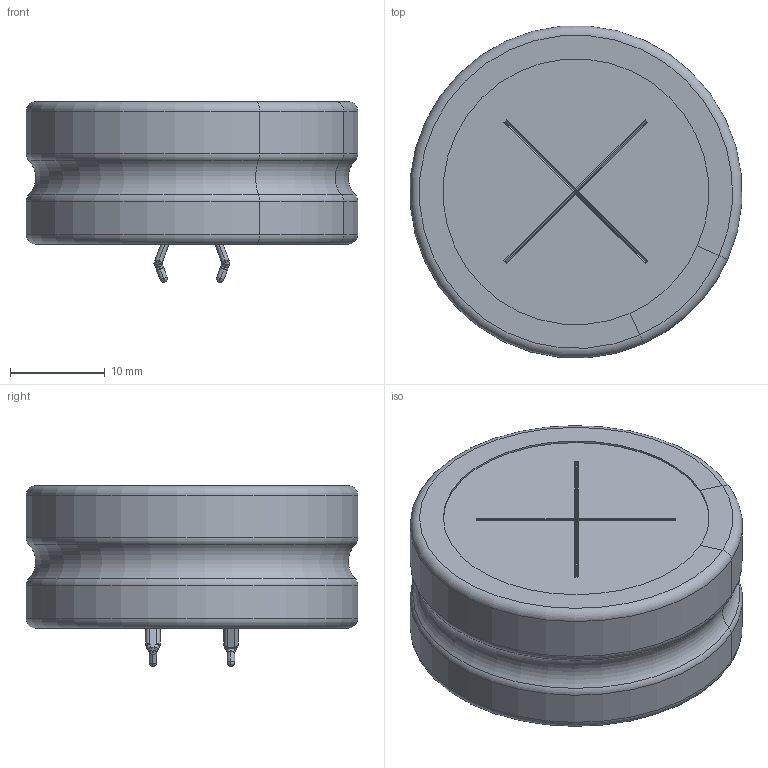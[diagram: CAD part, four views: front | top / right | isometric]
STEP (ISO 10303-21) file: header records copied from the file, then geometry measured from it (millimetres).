
FILE_DESCRIPTION(/* description */ (''),/* implementation_level */ '2;1');
FILE_NAME(/* name */ '35x15_Snap.stp',/* time_stamp */ '2017-09-02T14:56:56+09:00',/* author */ (''),/* organization */ (''),/* preprocessor_version */ 'ST-DEVELOPER v16',/* originating_system */ 'SIEMENS PLM Software NX 11.0',/* authorisation */ '');
FILE_SCHEMA (('AUTOMOTIVE_DESIGN { 1 0 10303 214 3 1 1 1 }'));
Length unit declared in the file: millimetre
Products named in the file (1): 35x15_Snap_igsstp
Bounding box: 34.9 x 34.9 x 19.02 mm (x, y, z)
Volume: 13835.9 mm3; surface area: 8138.9 mm2
Topology: 5 solids, 5 shells, 208 faces, 523 edges, 310 vertices
Faces by surface type: cylinder 76, plane 75, torus 25, sphere 20, bspline 12
Full cylindrical faces by diameter (mm): 4 x2, 34.6 x2
Entity records: 6775 total; most frequent: CARTESIAN_POINT 1265, DIRECTION 1128, ORIENTED_EDGE 988, EDGE_CURVE 494, AXIS2_PLACEMENT_3D 437, VERTEX_POINT 310, LINE 254, VECTOR 254
